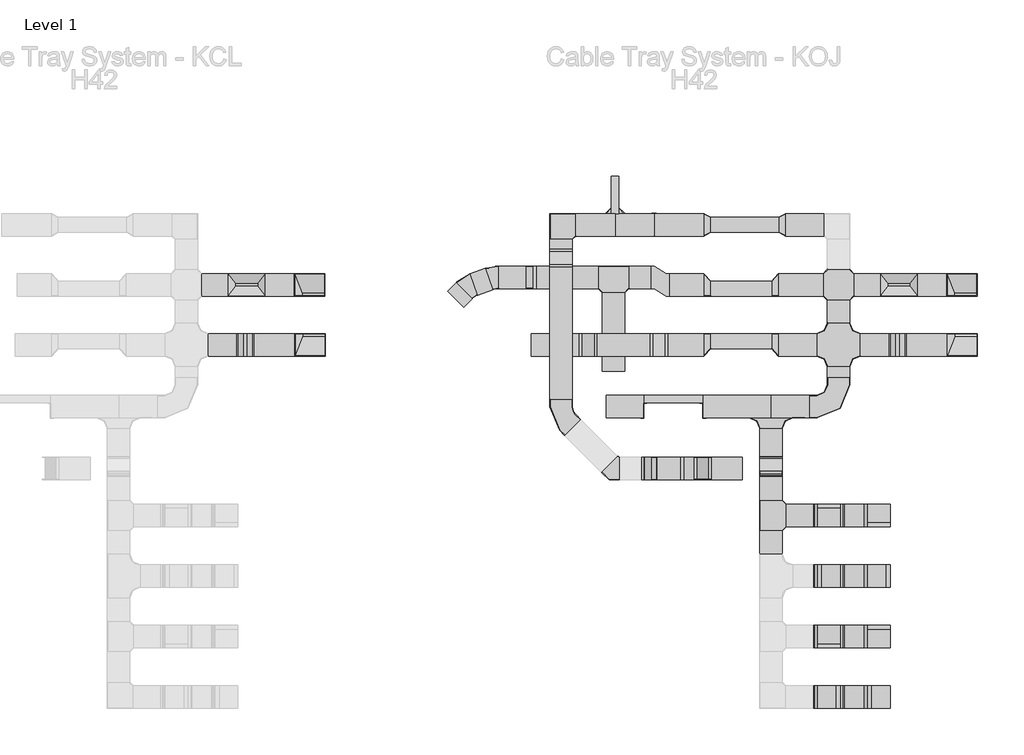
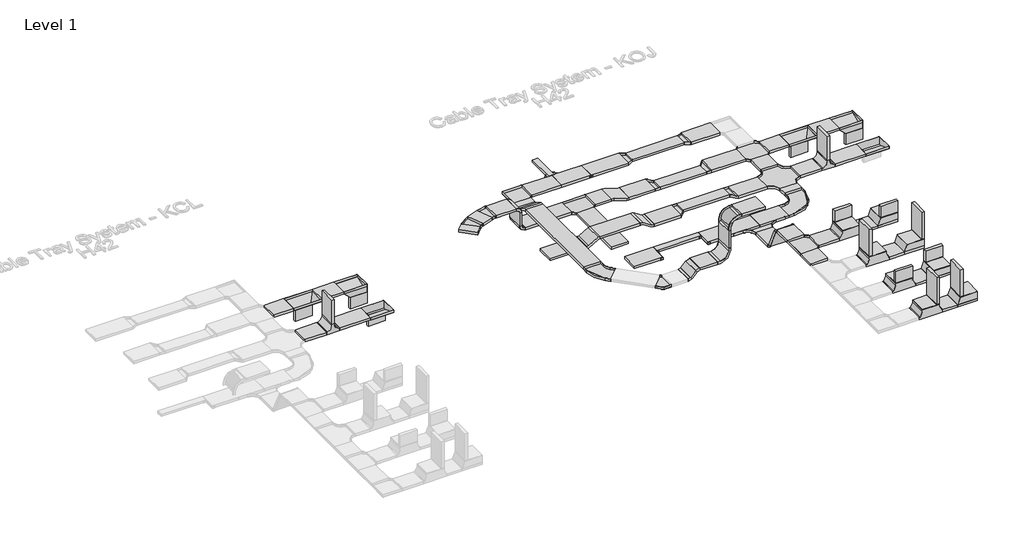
# One storey, part 3 of 32: 65 cable carrier segments, 50 cable carrier fittings.
"""IFC4 building model written with IfcOpenShell, lengths in millimetres."""

from ifc_helpers import new_model, si_unit, frame, origin, place, context, project, spatial, polyline, outline, extrude, transform, mapped, element, save
from components import cable_carrier_fitting_2f03b0e3, cable_carrier_fitting_e5c8e40d, cable_carrier_fitting_efa56db2, cable_carrier_fitting_2b67af39, cable_carrier_fitting_400b97e6, cable_carrier_fitting_736d034b, cable_carrier_fitting_94ef316f, cable_carrier_fitting_d4aa8912, cable_carrier_fitting_717dd42d, cable_carrier_fitting_b6ebce7b, cable_carrier_fitting_70c157f5, cable_carrier_fitting_f138ef00, cable_carrier_fitting_e93d4d17, cable_carrier_fitting_1724e2f5, cable_carrier_fitting_f62230c1, cable_carrier_fitting_ae8e9708, cable_carrier_fitting_2d1b2b1b, cable_carrier_fitting_6d558282, cable_carrier_fitting_b296faec, cable_carrier_fitting_47b1af77, cable_carrier_fitting_55953e98, cable_carrier_fitting_c1d9b0e5, cable_carrier_fitting_19ef2403, cable_carrier_fitting_0fee3a18, cable_carrier_fitting_9011e538, cable_carrier_fitting_5d3ac796, cable_carrier_fitting_b8cc1d00, cable_carrier_fitting_0e05e12f, cable_carrier_fitting_aa4403b1, cable_carrier_fitting_df0feb0d, cable_carrier_fitting_3ff81d9b, cable_carrier_fitting_7d5806c9, cable_carrier_fitting_881c8fdb, cable_carrier_fitting_302010ec, cable_carrier_fitting_0ce080ce, rkj200_h42_828cf9d7, rkj200_h42_37d9c611

model = new_model("IFC4")

# Units and contexts
model_context = context("Model", 3, world=origin())
ifc_project = project(units=[si_unit("LENGTHUNIT", "METRE", prefix="MILLI")], contexts=[model_context])

# Site, building, storey
site = spatial("IfcSite", under=ifc_project)
building = spatial("IfcBuilding", under=site)
storey = spatial("IfcBuildingStorey", under=building, Name="Level 1", Elevation=0.0)

# Cable carrier fittings
placement = place(None, origin())
cable_carrier_fitting_shape = cable_carrier_fitting_2f03b0e3(model_context)
element("IfcCableCarrierFitting", 1, ObjectType="BAKS_Vertical tee symetrical : TRSNJ_H42", at=placement, inside=storey, context=model_context, shape_type="MappedRepresentation", body=[
    mapped(cable_carrier_fitting_shape, transform((-15558.1670538, 44980.8714214, 0.0), x_axis=(1.0, 0.0, 0.0), y_axis=(0.0, -1.0, 0.0), z_axis=(0.0, 0.0, -1.0))),
])
element("IfcCableCarrierFitting", 2, ObjectType="BAKS_Vertical tee symetrical : TRSNJ_H42", at=placement, inside=storey, context=model_context, shape_type="MappedRepresentation", body=[
    mapped(cable_carrier_fitting_shape, transform((-6858.1670538, 44980.8714214, 0.0), x_axis=(1.0, 0.0, 0.0), y_axis=(0.0, -1.0, 0.0), z_axis=(0.0, 0.0, -1.0))),
])
cable_carrier_fitting_2_shape = cable_carrier_fitting_e5c8e40d(model_context)
element("IfcCableCarrierFitting", 3, ObjectType="BAKS_SUB_Corner connector : LRJ_H42", at=placement, inside=storey, context=model_context, shape_type="MappedRepresentation", body=[
    mapped(cable_carrier_fitting_2_shape, transform((-10675.1670538, 46730.8714214, -21.0), x_axis=(-1.0, 0.0, 0.0), y_axis=(0.0, -1.0, 0.0), z_axis=(0.0, 0.0, 1.0))),
])
element("IfcCableCarrierFitting", 4, ObjectType="BAKS_SUB_Corner connector : LRJ_H42", at=placement, inside=storey, context=model_context, shape_type="MappedRepresentation", body=[
    mapped(cable_carrier_fitting_2_shape, transform((-10575.1670538, 46730.8714214, -21.0), x_axis=(0.0, 1.0, 0.0), y_axis=(-1.0, 0.0, 0.0), z_axis=(0.0, 0.0, 1.0))),
])
cable_carrier_fitting_3_shape = cable_carrier_fitting_efa56db2(model_context)
element("IfcCableCarrierFitting", 5, ObjectType="BAKS_Horizontal bypass : OPZNJ_H42", at=placement, inside=storey, context=model_context, shape_type="MappedRepresentation", body=[
    mapped(cable_carrier_fitting_3_shape, transform((-10022.1670538, 45780.8714214, 0.0), x_axis=(-1.0, 0.0, 0.0), y_axis=(0.0, 1.0, 0.0), z_axis=(0.0, 0.0, -1.0))),
])
cable_carrier_fitting_4_shape = cable_carrier_fitting_2b67af39(model_context)
element("IfcCableCarrierFitting", 6, ObjectType="BAKS_Vertical bypass : OPNNJ_H42", at=placement, inside=storey, context=model_context, shape_type="MappedRepresentation", body=[
    mapped(cable_carrier_fitting_4_shape, transform((-10986.6670538, 44980.8714214, 100.0), x_axis=(-1.0, 0.0, 0.0), y_axis=(0.0, -1.0, 0.0), z_axis=(0.0, 0.0, 1.0))),
])
cable_carrier_fitting_5_shape = cable_carrier_fitting_400b97e6(model_context)
element("IfcCableCarrierFitting", 7, ObjectType="BAKS_Vertical elbow left : KRLBJ_H42", at=placement, inside=storey, context=model_context, shape_type="MappedRepresentation", body=[
    mapped(cable_carrier_fitting_5_shape, transform((-14908.1670538, 45780.8714214, 0.0), x_axis=(1.0, 0.0, 0.0), y_axis=(0.0, 1.0, 0.0), z_axis=(0.0, 0.0, 1.0))),
])
element("IfcCableCarrierFitting", 8, ObjectType="BAKS_Vertical elbow left : KRLBJ_H42", at=placement, inside=storey, context=model_context, shape_type="MappedRepresentation", body=[
    mapped(cable_carrier_fitting_5_shape, transform((-6208.1670538, 45780.8714214, 0.0), x_axis=(1.0, 0.0, 0.0), y_axis=(0.0, 1.0, 0.0), z_axis=(0.0, 0.0, 1.0))),
])
cable_carrier_fitting_6_shape = cable_carrier_fitting_736d034b(model_context)
element("IfcCableCarrierFitting", 9, ObjectType="BAKS_Vertical tee lengthwise : TRBJ_H42", at=placement, inside=storey, context=model_context, shape_type="MappedRepresentation", body=[
    mapped(cable_carrier_fitting_6_shape, transform((-15538.1670538, 45780.8714214, 0.0), x_axis=(-1.0, 0.0, 0.0), y_axis=(0.0, -1.0, 0.0), z_axis=(0.0, 0.0, 1.0))),
])
element("IfcCableCarrierFitting", 10, ObjectType="BAKS_Vertical tee lengthwise : TRBJ_H42", at=placement, inside=storey, context=model_context, shape_type="MappedRepresentation", body=[
    mapped(cable_carrier_fitting_6_shape, transform((-6838.1670538, 45780.8714214, 0.0), x_axis=(-1.0, 0.0, 0.0), y_axis=(0.0, -1.0, 0.0), z_axis=(0.0, 0.0, 1.0))),
])
cable_carrier_fitting_7_shape = cable_carrier_fitting_94ef316f(model_context)
element("IfcCableCarrierFitting", 11, ObjectType="BAKS_Reducer : RK(S/L/P)L_H42", at=placement, inside=storey, context=model_context, shape_type="MappedRepresentation", body=[
    mapped(cable_carrier_fitting_7_shape, transform((-9443.1670538, 46580.8714214, 0.0), x_axis=(1.0, 0.0, 0.0), y_axis=(0.0, 1.0, 0.0), z_axis=(0.0, 0.0, 1.0))),
])
cable_carrier_fitting_8_shape = cable_carrier_fitting_d4aa8912(model_context)
element("IfcCableCarrierFitting", 12, ObjectType="BAKS_Reducer : RK(S/L/P)L_H42", at=placement, inside=storey, context=model_context, shape_type="MappedRepresentation", body=[
    mapped(cable_carrier_fitting_8_shape, transform((-8443.1670538, 46580.8714214, 0.0), x_axis=(1.0, 0.0, 0.0), y_axis=(0.0, 1.0, 0.0), z_axis=(0.0, 0.0, 1.0))),
])
cable_carrier_fitting_9_shape = cable_carrier_fitting_717dd42d(model_context)
element("IfcCableCarrierFitting", 13, ObjectType="BAKS_Horizontal bend : KKBL/KKMBL_H42", at=placement, inside=storey, context=model_context, shape_type="MappedRepresentation", body=[
    mapped(cable_carrier_fitting_9_shape, transform((-11343.1670538, 46580.8714214, 0.0), x_axis=(-1.0, 0.0, 0.0), y_axis=(0.0, -1.0, 0.0), z_axis=(0.0, 0.0, 1.0))),
])
cable_carrier_fitting_10_shape = cable_carrier_fitting_b6ebce7b(model_context)
element("IfcCableCarrierFitting", 14, ObjectType="BAKS_Horizontal tee : TKL_H42", at=placement, inside=storey, context=model_context, shape_type="MappedRepresentation", body=[
    mapped(cable_carrier_fitting_10_shape, transform((-10643.6670538, 45880.8714214, 0.0), x_axis=(1.0, 0.0, 0.0), y_axis=(0.0, 1.0, 0.0), z_axis=(0.0, 0.0, 1.0))),
])
element("IfcCableCarrierFitting", 15, ObjectType="BAKS_Horizontal tee : TKL_H42", at=placement, inside=storey, context=model_context, shape_type="MappedRepresentation", body=[
    mapped(cable_carrier_fitting_10_shape, transform((-8546.1670538, 42703.8631068, 432.5277378), x_axis=(0.0, 1.0, 0.0), y_axis=(-1.0, 0.0, 0.0), z_axis=(0.0, 0.0, 1.0))),
])
cable_carrier_fitting_11_shape = cable_carrier_fitting_70c157f5(model_context)
element("IfcCableCarrierFitting", 16, ObjectType="BAKS_Reducer : RK(S/L/P)L_H42", at=placement, inside=storey, context=model_context, shape_type="MappedRepresentation", body=[
    mapped(cable_carrier_fitting_11_shape, transform((-9443.1670538, 45780.8714214, 0.0), x_axis=(1.0, 0.0, 0.0), y_axis=(0.0, 1.0, 0.0), z_axis=(0.0, 0.0, 1.0))),
])
element("IfcCableCarrierFitting", 17, ObjectType="BAKS_Reducer : RK(S/L/P)L_H42", at=placement, inside=storey, context=model_context, shape_type="MappedRepresentation", body=[
    mapped(cable_carrier_fitting_11_shape, transform((-8443.1670538, 44980.8714214, 0.0), x_axis=(-1.0, 0.0, 0.0), y_axis=(0.0, -1.0, 0.0), z_axis=(0.0, 0.0, 1.0))),
])
cable_carrier_fitting_12_shape = cable_carrier_fitting_f138ef00(model_context)
element("IfcCableCarrierFitting", 18, ObjectType="BAKS_Reducer : RK(S/L/P)L_H42", at=placement, inside=storey, context=model_context, shape_type="MappedRepresentation", body=[
    mapped(cable_carrier_fitting_12_shape, transform((-8443.1670538, 45780.8714214, 0.0), x_axis=(-1.0, 0.0, 0.0), y_axis=(0.0, -1.0, 0.0), z_axis=(0.0, 0.0, 1.0))),
])
element("IfcCableCarrierFitting", 19, ObjectType="BAKS_Reducer : RK(S/L/P)L_H42", at=placement, inside=storey, context=model_context, shape_type="MappedRepresentation", body=[
    mapped(cable_carrier_fitting_12_shape, transform((-9443.1670538, 44980.8714214, 0.0), x_axis=(1.0, 0.0, 0.0), y_axis=(0.0, 1.0, 0.0), z_axis=(0.0, 0.0, 1.0))),
])
cable_carrier_fitting_13_shape = cable_carrier_fitting_e93d4d17(model_context)
element("IfcCableCarrierFitting", 20, ObjectType="BAKS_Plate connector : LPMU_H42", at=placement, inside=storey, context=model_context, shape_type="MappedRepresentation", body=[
    mapped(cable_carrier_fitting_13_shape, transform((-10103.1670538, 46580.8714214, 0.0), x_axis=(1.0, 0.0, 0.0), y_axis=(0.0, 1.0, 0.0), z_axis=(0.0, 0.0, 1.0))),
])
cable_carrier_fitting_14_shape = cable_carrier_fitting_1724e2f5(model_context)
element("IfcCableCarrierFitting", 21, ObjectType="BAKS_Vertical bypass : OPNNJ_H42", at=placement, inside=storey, context=model_context, shape_type="MappedRepresentation", body=[
    mapped(cable_carrier_fitting_14_shape, transform((-10043.6670538, 44980.8714214, 0.0), x_axis=(-1.0, 0.0, 0.0), y_axis=(0.0, -1.0, 0.0), z_axis=(0.0, 0.0, 1.0))),
])
element("IfcCableCarrierFitting", 22, ObjectType="BAKS_Vertical bypass : OPNNJ_H42", at=placement, inside=storey, context=model_context, shape_type="MappedRepresentation", body=[
    mapped(cable_carrier_fitting_14_shape, transform((-11343.1670538, 46139.3714214, 0.0), x_axis=(0.0, -1.0, 0.0), y_axis=(1.0, 0.0, 0.0), z_axis=(0.0, 0.0, 1.0))),
])
cable_carrier_fitting_15_shape = cable_carrier_fitting_f62230c1(model_context)
element("IfcCableCarrierFitting", 23, ObjectType="BAKS_Vertical bend LU : LUNJ/LUMNJ_H42", at=placement, inside=storey, context=model_context, shape_type="MappedRepresentation", body=[
    mapped(cable_carrier_fitting_15_shape, transform((-11743.6670538, 45880.8714214, 0.0), x_axis=(-1.0, 0.0, 0.0), y_axis=(0.0, 0.0, 1.0), z_axis=(0.0, 1.0, 0.0))),
])
element("IfcCableCarrierFitting", 24, ObjectType="BAKS_Vertical bend LU : LUNJ/LUMNJ_H42", at=placement, inside=storey, context=model_context, shape_type="MappedRepresentation", body=[
    mapped(cable_carrier_fitting_15_shape, transform((-11743.6670538, 45880.8714214, 400.0), x_axis=(0.0, 0.0, 1.0), y_axis=(-1.0, 0.0, 0.0), z_axis=(0.0, -1.0, 0.0))),
])
cable_carrier_fitting_16_shape = cable_carrier_fitting_ae8e9708(model_context)
element("IfcCableCarrierFitting", 25, ObjectType="BAKS_Horizontal bend : KKBL/KKMBL_H42", at=placement, inside=storey, context=model_context, shape_type="MappedRepresentation", body=[
    mapped(cable_carrier_fitting_16_shape, transform((-10643.6670538, 43331.3714214, 100.0), x_axis=(0.7071067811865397, -0.7071067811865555, 0.0), y_axis=(0.7071067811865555, 0.7071067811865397, 0.0), z_axis=(0.0, 0.0, 1.0))),
])
cable_carrier_fitting_17_shape = cable_carrier_fitting_2d1b2b1b(model_context)
element("IfcCableCarrierFitting", 26, ObjectType="BAKS_Vertical bend LU : LUNJ/LUMNJ_H42", at=placement, inside=storey, context=model_context, shape_type="MappedRepresentation", body=[
    mapped(cable_carrier_fitting_17_shape, transform((-10243.6670538, 43331.3714214, 100.0), x_axis=(1.0, 0.0, 0.0), y_axis=(0.0, 0.0, 1.0), z_axis=(0.0, -1.0, 0.0))),
])
element("IfcCableCarrierFitting", 27, ObjectType="BAKS_Vertical bend LU : LUNJ/LUMNJ_H42", at=placement, inside=storey, context=model_context, shape_type="MappedRepresentation", body=[
    mapped(cable_carrier_fitting_17_shape, transform((-10106.2659001, 43331.3714214, 237.4011537), x_axis=(0.7071067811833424, 0.0, 0.7071067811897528), y_axis=(0.7071067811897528, 0.0, -0.7071067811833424), z_axis=(0.0, 1.0, 0.0))),
])
cable_carrier_fitting_18_shape = cable_carrier_fitting_6d558282(model_context)
element("IfcCableCarrierFitting", 28, ObjectType="BAKS_Vertical bend adjustable : LLL/LLJ_H42", at=placement, inside=storey, context=model_context, shape_type="MappedRepresentation", body=[
    mapped(cable_carrier_fitting_18_shape, transform((-9546.2659001, 43331.3714214, 237.4011537), x_axis=(1.0, 0.0, 0.0), y_axis=(0.0, 0.0, 1.0), z_axis=(0.0, -1.0, 0.0))),
])
element("IfcCableCarrierFitting", 29, ObjectType="BAKS_Vertical bend adjustable : LLL/LLJ_H42", at=placement, inside=storey, context=model_context, shape_type="MappedRepresentation", body=[
    mapped(cable_carrier_fitting_18_shape, transform((-9546.2659001, 43331.3714214, 977.4011537), x_axis=(0.0, 0.0, 1.0), y_axis=(1.0, 0.0, 0.0), z_axis=(0.0, 1.0, 0.0))),
])
cable_carrier_fitting_19_shape = cable_carrier_fitting_b296faec(model_context)
element("IfcCableCarrierFitting", 30, ObjectType="BAKS_Horizontal addon tee : TKDJ_H42", at=placement, inside=storey, context=model_context, shape_type="MappedRepresentation", body=[
    mapped(cable_carrier_fitting_19_shape, transform((-8546.1670538, 44155.8714214, 0.0), x_axis=(1.0, 0.0, 0.0), y_axis=(0.0, 1.0, 0.0), z_axis=(0.0, 0.0, 1.0))),
])
cable_carrier_fitting_20_shape = cable_carrier_fitting_47b1af77(model_context)
element("IfcCableCarrierFitting", 31, ObjectType="BAKS_Articulated_connector : LGJ_H42", at=placement, inside=storey, context=model_context, shape_type="MappedRepresentation", body=[
    mapped(cable_carrier_fitting_20_shape, transform((-8546.1670538, 43458.7056523, 0.0), x_axis=(0.0, -1.0, 0.0), y_axis=(0.0, 0.0, 1.0), z_axis=(-1.0, 0.0, 0.0))),
])
element("IfcCableCarrierFitting", 32, ObjectType="BAKS_Articulated_connector : LGJ_H42", at=placement, inside=storey, context=model_context, shape_type="MappedRepresentation", body=[
    mapped(cable_carrier_fitting_20_shape, transform((-8546.1670538, 43257.0146558, 432.5277378), x_axis=(0.0, -0.42261826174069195, 0.9063077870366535), y_axis=(0.0, -0.9063077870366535, -0.42261826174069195), z_axis=(1.0, 0.0, 0.0))),
])
cable_carrier_fitting_21_shape = cable_carrier_fitting_55953e98(model_context)
element("IfcCableCarrierFitting", 33, ObjectType="BAKS_Horizontal bend radius : KKPJ/KKMPJ_H42", at=placement, inside=storey, context=model_context, shape_type="MappedRepresentation", body=[
    mapped(cable_carrier_fitting_21_shape, transform((-11343.1670538, 44030.8714214, 100.0), x_axis=(0.0, -1.0, 0.0), y_axis=(1.0, 0.0, 0.0), z_axis=(0.0, 0.0, 1.0))),
])
cable_carrier_fitting_22_shape = cable_carrier_fitting_c1d9b0e5(model_context)
element("IfcCableCarrierFitting", 34, ObjectType="BAKS_Horizontal bend radius : KKPJ/KKMPJ_H42", at=placement, inside=storey, context=model_context, shape_type="MappedRepresentation", body=[
    mapped(cable_carrier_fitting_22_shape, transform((-7643.1670538, 44155.8714214, 0.0), x_axis=(1.0, 0.0, 0.0), y_axis=(0.0, 1.0, 0.0), z_axis=(0.0, 0.0, 1.0))),
])
cable_carrier_fitting_23_shape = cable_carrier_fitting_19ef2403(model_context)
element("IfcCableCarrierFitting", 35, ObjectType="BAKS_Adjustable bend : KKRPJ_H42", at=placement, inside=storey, context=model_context, shape_type="MappedRepresentation", body=[
    mapped(cable_carrier_fitting_23_shape, transform((-12581.9563973, 45757.7441698, 400.0), x_axis=(-0.9396926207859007, -0.34202014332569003, 0.0), y_axis=(0.34202014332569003, -0.9396926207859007, 0.0), z_axis=(0.0, 0.0, 1.0))),
])
cable_carrier_fitting_24_shape = cable_carrier_fitting_0fee3a18(model_context)
element("IfcCableCarrierFitting", 36, ObjectType="BAKS_Adjustable bend : KKRPJ_H42", at=placement, inside=storey, context=model_context, shape_type="MappedRepresentation", body=[
    mapped(cable_carrier_fitting_24_shape, transform((-12243.6670538, 45880.8714214, 400.0), x_axis=(-1.0, 0.0, 0.0), y_axis=(0.0, -1.0, 0.0), z_axis=(0.0, 0.0, 1.0))),
])
cable_carrier_fitting_25_shape = cable_carrier_fitting_9011e538(model_context)
element("IfcCableCarrierFitting", 37, ObjectType="BAKS_Horizontal cross over : CZKL_H42", at=placement, inside=storey, context=model_context, shape_type="MappedRepresentation", body=[
    mapped(cable_carrier_fitting_25_shape, transform((-7643.1670538, 45780.8714214, 0.0), x_axis=(0.0, -1.0, 0.0), y_axis=(1.0, 0.0, 0.0), z_axis=(0.0, 0.0, 1.0))),
])
cable_carrier_fitting_26_shape = cable_carrier_fitting_5d3ac796(model_context)
element("IfcCableCarrierFitting", 38, ObjectType="BAKS_Horizontal cross over radius : CZKPJ_H42", at=placement, inside=storey, context=model_context, shape_type="MappedRepresentation", body=[
    mapped(cable_carrier_fitting_26_shape, transform((-7643.1670538, 44980.8714214, 0.0), x_axis=(0.0, -1.0, 0.0), y_axis=(1.0, 0.0, 0.0), z_axis=(0.0, 0.0, 1.0))),
])
cable_carrier_fitting_27_shape = cable_carrier_fitting_b8cc1d00(model_context)
element("IfcCableCarrierFitting", 39, ObjectType="BAKS_Vertical elbow right : KRPJ_H42", at=placement, inside=storey, context=model_context, shape_type="MappedRepresentation", body=[
    mapped(cable_carrier_fitting_27_shape, transform((-14902.1670538, 44980.8714214, 0.0), x_axis=(1.0, 0.0, 0.0), y_axis=(0.0, 1.0, 0.0), z_axis=(0.0, 0.0, 1.0))),
])
element("IfcCableCarrierFitting", 40, ObjectType="BAKS_Vertical elbow right : KRPJ_H42", at=placement, inside=storey, context=model_context, shape_type="MappedRepresentation", body=[
    mapped(cable_carrier_fitting_27_shape, transform((-6202.1670538, 44980.8714214, 0.0), x_axis=(1.0, 0.0, 0.0), y_axis=(0.0, 1.0, 0.0), z_axis=(0.0, 0.0, 1.0))),
])
cable_carrier_fitting_28_shape = cable_carrier_fitting_0e05e12f(model_context)
element("IfcCableCarrierFitting", 41, ObjectType="BAKS_Universal elbow : KRUMJ_H42", at=placement, inside=storey, context=model_context, shape_type="MappedRepresentation", body=[
    mapped(cable_carrier_fitting_28_shape, transform((-7306.1670538, 42703.8631068, 432.5277378), x_axis=(1.0, 0.0, 0.0), y_axis=(0.0, 1.0, 0.0), z_axis=(0.0, 0.0, 1.0))),
])
cable_carrier_fitting_29_shape = cable_carrier_fitting_aa4403b1(model_context)
element("IfcCableCarrierFitting", 42, ObjectType="BAKS_Universal elbow : KRUMJ_H42", at=placement, inside=storey, context=model_context, shape_type="MappedRepresentation", body=[
    mapped(cable_carrier_fitting_29_shape, transform((-7306.1670538, 41089.2974728, 432.5277378), x_axis=(1.0, 0.0, 0.0), y_axis=(0.0, 1.0, 0.0), z_axis=(0.0, 0.0, 1.0))),
])
cable_carrier_fitting_30_shape = cable_carrier_fitting_df0feb0d(model_context)
element("IfcCableCarrierFitting", 43, ObjectType="BAKS_Universal elbow : KRUMJ_H42", at=placement, inside=storey, context=model_context, shape_type="MappedRepresentation", body=[
    mapped(cable_carrier_fitting_30_shape, transform((-7306.1670538, 40282.0146558, 432.5277378), x_axis=(1.0, 0.0, 0.0), y_axis=(0.0, 1.0, 0.0), z_axis=(0.0, 0.0, 1.0))),
])
cable_carrier_fitting_31_shape = cable_carrier_fitting_3ff81d9b(model_context)
element("IfcCableCarrierFitting", 44, ObjectType="BAKS_Universal tee : TRUNJ_H42", at=placement, inside=storey, context=model_context, shape_type="MappedRepresentation", body=[
    mapped(cable_carrier_fitting_31_shape, transform((-7773.5199976, 42703.8631068, 432.5277378), x_axis=(-1.0, 0.0, 0.0), y_axis=(0.0, -1.0, 0.0), z_axis=(0.0, 0.0, 1.0))),
])
cable_carrier_fitting_32_shape = cable_carrier_fitting_7d5806c9(model_context)
element("IfcCableCarrierFitting", 45, ObjectType="BAKS_Universal tee : TRUNJ_H42", at=placement, inside=storey, context=model_context, shape_type="MappedRepresentation", body=[
    mapped(cable_carrier_fitting_32_shape, transform((-7773.5199976, 41089.2974728, 432.5277378), x_axis=(-1.0, 0.0, 0.0), y_axis=(0.0, -1.0, 0.0), z_axis=(0.0, 0.0, 1.0))),
])
cable_carrier_fitting_33_shape = cable_carrier_fitting_881c8fdb(model_context)
element("IfcCableCarrierFitting", 46, ObjectType="BAKS_Universal elbow : KRUMJ_H42", at=placement, inside=storey, context=model_context, shape_type="MappedRepresentation", body=[
    mapped(cable_carrier_fitting_33_shape, transform((-7306.1670538, 41896.5802898, 432.5277378), x_axis=(1.0, 0.0, 0.0), y_axis=(0.0, 1.0, 0.0), z_axis=(0.0, 0.0, 1.0))),
])
cable_carrier_fitting_34_shape = cable_carrier_fitting_302010ec(model_context)
element("IfcCableCarrierFitting", 47, ObjectType="BAKS_Universal tee : TRUNJ_H42", at=placement, inside=storey, context=model_context, shape_type="MappedRepresentation", body=[
    mapped(cable_carrier_fitting_34_shape, transform((-7773.5199976, 41896.5802898, 432.5277378), x_axis=(-1.0, 0.0, 0.0), y_axis=(0.0, -1.0, 0.0), z_axis=(0.0, 0.0, 1.0))),
])
cable_carrier_fitting_35_shape = cable_carrier_fitting_0ce080ce(model_context)
element("IfcCableCarrierFitting", 48, ObjectType="BAKS_Universal tee : TRUNJ_H42", at=placement, inside=storey, context=model_context, shape_type="MappedRepresentation", body=[
    mapped(cable_carrier_fitting_35_shape, transform((-7773.5199976, 40282.0146558, 432.5277378), x_axis=(-1.0, 0.0, 0.0), y_axis=(0.0, -1.0, 0.0), z_axis=(0.0, 0.0, 1.0))),
])
rkj200_h42_shape = rkj200_h42_828cf9d7(model_context)
element("IfcCableCarrierFitting", 49, ObjectType="BAKS_Angle reducer : RKJ200_H42", at=placement, inside=storey, context=model_context, shape_type="MappedRepresentation", body=[
    mapped(rkj200_h42_shape, transform((-9453.1670538, 44155.8714214, 0.0), x_axis=(-1.0, 0.0, 0.0), y_axis=(0.0, -1.0, 0.0), z_axis=(0.0, 0.0, 1.0))),
])
rkj200_h42_2_shape = rkj200_h42_37d9c611(model_context)
element("IfcCableCarrierFitting", 50, ObjectType="BAKS_Angle reducer : RKJ200_H42", at=placement, inside=storey, context=model_context, shape_type="MappedRepresentation", body=[
    mapped(rkj200_h42_2_shape, transform((-10243.1670538, 44155.8714214, 0.0), x_axis=(1.0, 0.0, 0.0), y_axis=(0.0, 1.0, 0.0), z_axis=(0.0, 0.0, 1.0))),
])

# Cable carrier segments
element("IfcCableCarrierSegment", 51, ObjectType="BAKS - Cable tray H42 (KCL)", at=placement, inside=storey, context=model_context, shape_type="SweptSolid", body=[
    extrude(outline(polyline([(-16138.1670538, 45630.8714214), (-16138.1670538, 45930.8714214), (-15788.1670538, 45930.8714214), (-15788.1670538, 45630.8714214), (-16138.1670538, 45630.8714214)])), frame((0.0, 0.0, -21.0), z_axis=(0.0, 0.0, 1.0), x_axis=(1.0, 0.0, 0.0)), (0.0, 0.0, 1.0), 42.0),
])
element("IfcCableCarrierSegment", 52, ObjectType="BAKS - Cable tray H42 (KCL)", at=placement, inside=storey, context=model_context, shape_type="SweptSolid", body=[
    extrude(outline(polyline([(-16052.1670538, 44830.8714214), (-16052.1670538, 45130.8714214), (-15674.1670538, 45130.8714214), (-15674.1670538, 44830.8714214), (-16052.1670538, 44830.8714214)])), frame((0.0, 0.0, -21.0), z_axis=(0.0, 0.0, 1.0), x_axis=(1.0, 0.0, 0.0)), (0.0, 0.0, 1.0), 42.0),
])
element("IfcCableCarrierSegment", 53, ObjectType="BAKS - Cable tray H42 (KCL)", at=placement, inside=storey, context=model_context, shape_type="SweptSolid", body=[
    extrude(outline(polyline([(-15442.1670538, 44830.8714214), (-15442.1670538, 45130.8714214), (-14902.1670538, 45130.8714214), (-14902.1670538, 44830.8714214), (-15442.1670538, 44830.8714214)])), frame((0.0, 0.0, -21.0), z_axis=(0.0, 0.0, 1.0), x_axis=(1.0, 0.0, 0.0)), (0.0, 0.0, 1.0), 42.0),
])
element("IfcCableCarrierSegment", 54, ObjectType="BAKS - Cable tray H42 (KCL)", at=placement, inside=storey, context=model_context, shape_type="SweptSolid", body=[
    extrude(outline(polyline([(-15537.1670538, 44830.8714214), (-15579.1670538, 44830.8714214), (-15579.1670538, 45130.8714214), (-15537.1670538, 45130.8714214), (-15537.1670538, 44830.8714214)])), frame((0.0, 0.0, 136.0), z_axis=(0.0, 0.0, 1.0), x_axis=(1.0, 0.0, 0.0)), (0.0, 0.0, 1.0), 449.0),
])
element("IfcCableCarrierSegment", 55, ObjectType="BAKS - Cable tray H42 (KCL)", at=placement, inside=storey, context=model_context, shape_type="SweptSolid", body=[
    extrude(outline(polyline([(-15288.1670538, 45630.8714214), (-15288.1670538, 45930.8714214), (-14908.1670538, 45930.8714214), (-14908.1670538, 45630.8714214), (-15288.1670538, 45630.8714214)])), frame((0.0, 0.0, -21.0), z_axis=(0.0, 0.0, 1.0), x_axis=(1.0, 0.0, 0.0)), (0.0, 0.0, 1.0), 42.0),
])
element("IfcCableCarrierSegment", 56, ObjectType="BAKS - Cable tray H42 (KOJ)", at=placement, inside=storey, context=model_context, shape_type="SweptSolid", body=[
    extrude(outline(polyline([(-10102.1670538, 46430.8714214), (-10102.1670538, 46730.8714214), (-9443.1670538, 46730.8714214), (-9443.1670538, 46430.8714214), (-10102.1670538, 46430.8714214)])), frame((0.0, 0.0, -21.0), z_axis=(0.0, 0.0, 1.0), x_axis=(1.0, 0.0, 0.0)), (0.0, 0.0, 1.0), 42.0),
])
element("IfcCableCarrierSegment", 57, ObjectType="BAKS - Cable tray H42 (KOJ)", at=placement, inside=storey, context=model_context, shape_type="SweptSolid", body=[
    extrude(outline(polyline([(-9348.1670538, 46480.8714214), (-9348.1670538, 46680.8714214), (-8443.1670538, 46680.8714214), (-8443.1670538, 46480.8714214), (-9348.1670538, 46480.8714214)])), frame((0.0, 0.0, -21.0), z_axis=(0.0, 0.0, 1.0), x_axis=(1.0, 0.0, 0.0)), (0.0, 0.0, 1.0), 42.0),
])
element("IfcCableCarrierSegment", 58, ObjectType="BAKS - Cable tray H42 (KOJ)", at=placement, inside=storey, context=model_context, shape_type="SweptSolid", body=[
    extrude(outline(polyline([(-8348.1670538, 46430.8714214), (-8348.1670538, 46730.8714214), (-7839.1670538, 46730.8714214), (-7839.1670538, 46430.8714214), (-8348.1670538, 46430.8714214)])), frame((0.0, 0.0, -21.0), z_axis=(0.0, 0.0, 1.0), x_axis=(1.0, 0.0, 0.0)), (0.0, 0.0, 1.0), 42.0),
])
element("IfcCableCarrierSegment", 59, ObjectType="BAKS - Cable tray H42 (KOJ)", at=placement, inside=storey, context=model_context, shape_type="SweptSolid", body=[
    extrude(outline(polyline([(-7793.1670538, 45575.8714214), (-7493.1670538, 45575.8714214), (-7493.1670538, 45271.8714214), (-7793.1670538, 45271.8714214), (-7793.1670538, 45575.8714214)])), frame((0.0, 0.0, -21.0), z_axis=(0.0, 0.0, 1.0), x_axis=(1.0, 0.0, 0.0)), (0.0, 0.0, 1.0), 42.0),
])
element("IfcCableCarrierSegment", 60, ObjectType="BAKS - Cable tray H42 (KOJ)", at=placement, inside=storey, context=model_context, shape_type="SweptSolid", body=[
    extrude(outline(polyline([(-8538.1670538, 45830.8714214), (-8538.1670538, 45630.8714214), (-9348.1670538, 45630.8714214), (-9348.1670538, 45830.8714214), (-8538.1670538, 45830.8714214)])), frame((0.0, 0.0, -21.0), z_axis=(0.0, 0.0, 1.0), x_axis=(1.0, 0.0, 0.0)), (0.0, 0.0, 1.0), 42.0),
])
element("IfcCableCarrierSegment", 61, ObjectType="BAKS - Cable tray H42 (KOJ)", at=placement, inside=storey, context=model_context, shape_type="SweptSolid", body=[
    extrude(outline(polyline([(-9900.6670538, 45630.8714214), (-9900.6670538, 45930.8714214), (-9443.1670538, 45930.8714214), (-9443.1670538, 45630.8714214), (-9900.6670538, 45630.8714214)])), frame((0.0, 0.0, -21.0), z_axis=(0.0, 0.0, 1.0), x_axis=(1.0, 0.0, 0.0)), (0.0, 0.0, 1.0), 42.0),
])
element("IfcCableCarrierSegment", 62, ObjectType="BAKS - Cable tray H42 (KOJ)", at=placement, inside=storey, context=model_context, shape_type="SweptSolid", body=[
    extrude(outline(polyline([(-7848.1670538, 45930.8714214), (-7848.1670538, 45630.8714214), (-8443.1670538, 45630.8714214), (-8443.1670538, 45930.8714214), (-7848.1670538, 45930.8714214)])), frame((0.0, 0.0, -21.0), z_axis=(0.0, 0.0, 1.0), x_axis=(1.0, 0.0, 0.0)), (0.0, 0.0, 1.0), 42.0),
])
element("IfcCableCarrierSegment", 63, ObjectType="BAKS - Cable tray H42 (KOJ)", at=placement, inside=storey, context=model_context, shape_type="SweptSolid", body=[
    extrude(outline(polyline([(-8538.1670538, 45130.8714214), (-8538.1670538, 44930.8714214), (-9348.1670538, 44930.8714214), (-9348.1670538, 45130.8714214), (-8538.1670538, 45130.8714214)])), frame((0.0, 0.0, -21.0), z_axis=(0.0, 0.0, 1.0), x_axis=(1.0, 0.0, 0.0)), (0.0, 0.0, 1.0), 42.0),
])
element("IfcCableCarrierSegment", 64, ObjectType="BAKS - Cable tray H42 (KOJ)", at=placement, inside=storey, context=model_context, shape_type="SweptSolid", body=[
    extrude(outline(polyline([(-9922.1670538, 44830.8714214), (-9922.1670538, 45130.8714214), (-9443.1670538, 45130.8714214), (-9443.1670538, 44830.8714214), (-9922.1670538, 44830.8714214)])), frame((0.0, 0.0, -21.0), z_axis=(0.0, 0.0, 1.0), x_axis=(1.0, 0.0, 0.0)), (0.0, 0.0, 1.0), 42.0),
])
element("IfcCableCarrierSegment", 65, ObjectType="BAKS - Cable tray H42 (KOJ)", at=placement, inside=storey, context=model_context, shape_type="SweptSolid", body=[
    extrude(outline(polyline([(-7934.1670538, 45130.8714214), (-7934.1670538, 44830.8714214), (-8443.1670538, 44830.8714214), (-8443.1670538, 45130.8714214), (-7934.1670538, 45130.8714214)])), frame((0.0, 0.0, -21.0), z_axis=(0.0, 0.0, 1.0), x_axis=(1.0, 0.0, 0.0)), (0.0, 0.0, 1.0), 42.0),
])
element("IfcCableCarrierSegment", 66, ObjectType="BAKS - Cable tray H42 (KOJ)", at=placement, inside=storey, context=model_context, shape_type="SweptSolid", body=[
    extrude(outline(polyline([(-10848.6670538, 46030.8714214), (-10848.6670538, 45730.8714214), (-11667.6670538, 45730.8714214), (-11667.6670538, 46030.8714214), (-10848.6670538, 46030.8714214)])), frame((0.0, 0.0, -21.0), z_axis=(0.0, 0.0, 1.0), x_axis=(1.0, 0.0, 0.0)), (0.0, 0.0, 1.0), 42.0),
])
element("IfcCableCarrierSegment", 67, ObjectType="BAKS - Cable tray H42 (KOJ)", at=placement, inside=storey, context=model_context, shape_type="SweptSolid", body=[
    extrude(outline(polyline([(-10165.1670538, 45130.8714214), (-10165.1670538, 44830.8714214), (-10865.1670538, 44830.8714214), (-10865.1670538, 45130.8714214), (-10165.1670538, 45130.8714214)])), frame((0.0, 0.0, 79.0), z_axis=(0.0, 0.0, 1.0), x_axis=(1.0, 0.0, 0.0)), (0.0, 0.0, 1.0), 42.0),
])
element("IfcCableCarrierSegment", 68, ObjectType="BAKS - Cable tray H42 (KOJ)", at=placement, inside=storey, context=model_context, shape_type="SweptSolid", body=[
    extrude(outline(polyline([(-11493.1670538, 46384.8714214), (-11193.1670538, 46384.8714214), (-11193.1670538, 46260.8714214), (-11493.1670538, 46260.8714214), (-11493.1670538, 46384.8714214)])), frame((0.0, 0.0, -21.0), z_axis=(0.0, 0.0, 1.0), x_axis=(1.0, 0.0, 0.0)), (0.0, 0.0, 1.0), 42.0),
])
element("IfcCableCarrierSegment", 69, ObjectType="BAKS - Cable tray H42 (KOJ)", at=placement, inside=storey, context=model_context, shape_type="SweptSolid", body=[
    extrude(outline(polyline([(-10793.6670538, 45675.8714214), (-10493.6670538, 45675.8714214), (-10493.6670538, 44630.8714214), (-10793.6670538, 44630.8714214), (-10793.6670538, 45675.8714214)])), frame((0.0, 0.0, -21.0), z_axis=(0.0, 0.0, 1.0), x_axis=(1.0, 0.0, 0.0)), (0.0, 0.0, 1.0), 42.0),
])
element("IfcCableCarrierSegment", 70, ObjectType="BAKS - Cable tray H42 (KOJ)", at=placement, inside=storey, context=model_context, shape_type="SweptSolid", body=[
    extrude(outline(polyline([(-10143.6670538, 46030.8714214), (-10143.6670538, 45730.8714214), (-10438.6670538, 45730.8714214), (-10438.6670538, 46030.8714214), (-10143.6670538, 46030.8714214)])), frame((0.0, 0.0, -21.0), z_axis=(0.0, 0.0, 1.0), x_axis=(1.0, 0.0, 0.0)), (0.0, 0.0, 1.0), 42.0),
])
element("IfcCableCarrierSegment", 71, ObjectType="BAKS - Cable tray H42 (KOJ)", at=placement, inside=storey, context=model_context, shape_type="SweptSolid", body=[
    extrude(outline(polyline([(-11108.1670538, 45130.8714214), (-11108.1670538, 44830.8714214), (-11743.6670538, 44830.8714214), (-11743.6670538, 45130.8714214), (-11108.1670538, 45130.8714214)])), frame((0.0, 0.0, -21.0), z_axis=(0.0, 0.0, 1.0), x_axis=(1.0, 0.0, 0.0)), (0.0, 0.0, 1.0), 42.0),
])
element("IfcCableCarrierSegment", 72, ObjectType="BAKS - Cable tray H42 (KOJ)", at=placement, inside=storey, context=model_context, shape_type="SweptSolid", body=[
    extrude(outline(polyline([(-12177.5322294, 45730.8714214), (-12177.5322294, 46030.8714214), (-11819.6670538, 46030.8714214), (-11819.6670538, 45730.8714214), (-12177.5322294, 45730.8714214)])), frame((0.0, 0.0, 379.0), z_axis=(0.0, 0.0, 1.0), x_axis=(1.0, 0.0, 0.0)), (0.0, 0.0, 1.0), 42.0),
])
element("IfcCableCarrierSegment", 73, ObjectType="BAKS - Cable tray H42 (KOJ)", at=placement, inside=storey, context=model_context, shape_type="SweptSolid", body=[
    extrude(outline(polyline([(-11764.6670538, 46030.8714214), (-11722.6670538, 46030.8714214), (-11722.6670538, 45730.8714214), (-11764.6670538, 45730.8714214), (-11764.6670538, 46030.8714214)])), frame((0.0, 0.0, 76.0), z_axis=(0.0, 0.0, 1.0), x_axis=(1.0, 0.0, 0.0)), (0.0, 0.0, 1.0), 248.0),
])
element("IfcCableCarrierSegment", 74, ObjectType="BAKS - Cable tray H42 (KOJ)", at=placement, inside=storey, context=model_context, shape_type="SweptSolid", body=[
    extrude(outline(polyline([(-11193.1670538, 44250.9933545), (-11493.1670538, 44250.9933545), (-11493.1670538, 46017.8714214), (-11193.1670538, 46017.8714214), (-11193.1670538, 44250.9933545)])), frame((0.0, 0.0, 79.0), z_axis=(0.0, 0.0, 1.0), x_axis=(1.0, 0.0, 0.0)), (0.0, 0.0, 1.0), 42.0),
])
element("IfcCableCarrierSegment", 75, ObjectType="BAKS - Cable tray H42 (KOJ)", at=placement, inside=storey, context=model_context, shape_type="SweptSolid", body=[
    extrude(outline(polyline([(21.0, 1.4628667), (-21.0, 1.4628667), (-21.0, 301.4628667), (21.0, 301.4628667), (21.0, 1.4628667)])), frame((-10219.3361013, 43179.9085547, 124.3309524), z_axis=(0.7071067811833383, 0.0, 0.7071067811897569), x_axis=(0.7071067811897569, 0.0, -0.7071067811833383)), (0.0, 0.0, 1.0), 125.4962492),
])
element("IfcCableCarrierSegment", 76, ObjectType="BAKS - Cable tray H42 (KOJ)", at=placement, inside=storey, context=model_context, shape_type="SweptSolid", body=[
    extrude(outline(polyline([(-10071.8567371, 43181.3714214), (-10071.8567371, 43481.3714214), (-9757.2659001, 43481.3714214), (-9757.2659001, 43181.3714214), (-10071.8567371, 43181.3714214)])), frame((0.0, 0.0, 216.4011537), z_axis=(0.0, 0.0, 1.0), x_axis=(1.0, 0.0, 0.0)), (0.0, 0.0, 1.0), 42.0),
])
element("IfcCableCarrierSegment", 77, ObjectType="BAKS - Cable tray H42 (KOJ)", at=placement, inside=storey, context=model_context, shape_type="SweptSolid", body=[
    extrude(outline(polyline([(-9525.2659001, 43181.3714214), (-9567.2659001, 43181.3714214), (-9567.2659001, 43481.3714214), (-9525.2659001, 43481.3714214), (-9525.2659001, 43181.3714214)])), frame((0.0, 0.0, 448.4011537), z_axis=(0.0, 0.0, 1.0), x_axis=(1.0, 0.0, 0.0)), (0.0, 0.0, 1.0), 318.0),
])
element("IfcCableCarrierSegment", 78, ObjectType="BAKS - Cable tray H42 (KOJ)", at=placement, inside=storey, context=model_context, shape_type="SweptSolid", body=[
    extrude(outline(polyline([(-9335.2659001, 43181.3714214), (-9335.2659001, 43481.3714214), (-8926.2659001, 43481.3714214), (-8926.2659001, 43181.3714214), (-9335.2659001, 43181.3714214)])), frame((0.0, 0.0, 956.4011537), z_axis=(0.0, 0.0, 1.0), x_axis=(1.0, 0.0, 0.0)), (0.0, 0.0, 1.0), 42.0),
])
element("IfcCableCarrierSegment", 79, ObjectType="BAKS - Cable tray H42 (KOJ)", at=placement, inside=storey, context=model_context, shape_type="SweptSolid", body=[
    extrude(outline(polyline([(-8546.7091451, 44305.8714214), (-8546.7091451, 44005.8714214), (-9453.1670538, 44005.8714214), (-9453.1670538, 44305.8714214), (-8546.7091451, 44305.8714214)])), frame((0.0, 0.0, -21.0), z_axis=(0.0, 0.0, 1.0), x_axis=(1.0, 0.0, 0.0)), (0.0, 0.0, 1.0), 42.0),
])
element("IfcCableCarrierSegment", 80, ObjectType="BAKS - Cable tray H42 (KOJ)", at=placement, inside=storey, context=model_context, shape_type="SweptSolid", body=[
    extrude(outline(polyline([(-10238.1670538, 44205.8714214), (-10238.1670538, 44305.8714214), (-9458.1670538, 44305.8714214), (-9458.1670538, 44205.8714214), (-10238.1670538, 44205.8714214)])), frame((0.0, 0.0, -21.0), z_axis=(0.0, 0.0, 1.0), x_axis=(1.0, 0.0, 0.0)), (0.0, 0.0, 1.0), 42.0),
])
element("IfcCableCarrierSegment", 81, ObjectType="BAKS - Cable tray H42 (KOJ)", at=placement, inside=storey, context=model_context, shape_type="SweptSolid", body=[
    extrude(outline(polyline([(-7493.1670538, 44545.8714214), (-7793.1670538, 44545.8714214), (-7793.1670538, 44689.8714214), (-7493.1670538, 44689.8714214), (-7493.1670538, 44545.8714214)])), frame((0.0, 0.0, -21.0), z_axis=(0.0, 0.0, 1.0), x_axis=(1.0, 0.0, 0.0)), (0.0, 0.0, 1.0), 42.0),
])
element("IfcCableCarrierSegment", 82, ObjectType="BAKS - Cable tray H42 (KOJ)", at=placement, inside=storey, context=model_context, shape_type="SweptSolid", body=[
    extrude(outline(polyline([(-10743.1670538, 44005.8714214), (-10743.1670538, 44305.8714214), (-10243.1670538, 44305.8714214), (-10243.1670538, 44005.8714214), (-10743.1670538, 44005.8714214)])), frame((0.0, 0.0, -21.0), z_axis=(0.0, 0.0, 1.0), x_axis=(1.0, 0.0, 0.0)), (0.0, 0.0, 1.0), 42.0),
])
element("IfcCableCarrierSegment", 83, ObjectType="BAKS - Cable tray H42 (KOJ)", at=placement, inside=storey, context=model_context, shape_type="SweptSolid", body=[
    extrude(outline(polyline([(-8033.1670538, 44305.8714214), (-8033.1670538, 44005.8714214), (-8545.6249624, 44005.8714214), (-8545.6249624, 44305.8714214), (-8033.1670538, 44305.8714214)])), frame((0.0, 0.0, -21.0), z_axis=(0.0, 0.0, 1.0), x_axis=(1.0, 0.0, 0.0)), (0.0, 0.0, 1.0), 42.0),
])
element("IfcCableCarrierSegment", 84, ObjectType="BAKS - Cable tray H42 (KOJ)", at=placement, inside=storey, context=model_context, shape_type="SweptSolid", body=[
    extrude(outline(polyline([(-8696.1670538, 43859.8714214), (-8396.1670538, 43859.8714214), (-8396.1670538, 43494.8255329), (-8696.1670538, 43494.8255329), (-8696.1670538, 43859.8714214)])), frame((0.0, 0.0, -21.0), z_axis=(0.0, 0.0, 1.0), x_axis=(1.0, 0.0, 0.0)), (0.0, 0.0, 1.0), 42.0),
])
element("IfcCableCarrierSegment", 85, ObjectType="BAKS - Cable tray H42 (KOJ)", at=placement, inside=storey, context=model_context, shape_type="SweptSolid", body=[
    extrude(outline(polyline([(-150.0, 130.4628667), (-150.0, 172.4628667), (150.0, 172.4628667), (150.0, 130.4628667), (-150.0, 130.4628667)])), frame((-8546.1670538, 43306.1687555, -31.2752443), z_axis=(0.0, -0.42261826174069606, 0.9063077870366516), x_axis=(1.0, 0.0, 0.0)), (0.0, 0.0, 1.0), 405.0017938),
])
element("IfcCableCarrierSegment", 86, ObjectType="BAKS - Cable tray H42 (KOJ)", at=placement, inside=storey, context=model_context, shape_type="SweptSolid", body=[
    extrude(outline(polyline([(-12357.1164817, 45999.2058724), (-12254.5104387, 45717.2980862), (-12456.1437833, 45643.9095505), (-12558.7498263, 45925.8173368), (-12357.1164817, 45999.2058724)])), frame((0.0, 0.0, 379.0), z_axis=(0.0, 0.0, 1.0), x_axis=(1.0, 0.0, 0.0)), (0.0, 0.0, 1.0), 42.0),
])
element("IfcCableCarrierSegment", 87, ObjectType="BAKS - Cable tray H42 (KOJ)", at=placement, inside=storey, context=model_context, shape_type="SweptSolid", body=[
    extrude(outline(polyline([(-12744.0899379, 45807.7426635), (-12531.9579036, 45595.6106291), (-12644.3432656, 45483.2252671), (-12856.4753, 45695.3573015), (-12744.0899379, 45807.7426635)])), frame((0.0, 0.0, 379.0), z_axis=(0.0, 0.0, 1.0), x_axis=(1.0, 0.0, 0.0)), (0.0, 0.0, 1.0), 42.0),
])
element("IfcCableCarrierSegment", 88, ObjectType="BAKS - Cable tray H42 (KOJ)", at=placement, inside=storey, context=model_context, shape_type="SweptSolid", body=[
    extrude(outline(polyline([(-7438.1670538, 45630.8714214), (-7438.1670538, 45930.8714214), (-7088.1670538, 45930.8714214), (-7088.1670538, 45630.8714214), (-7438.1670538, 45630.8714214)])), frame((0.0, 0.0, -21.0), z_axis=(0.0, 0.0, 1.0), x_axis=(1.0, 0.0, 0.0)), (0.0, 0.0, 1.0), 42.0),
])
element("IfcCableCarrierSegment", 89, ObjectType="BAKS - Cable tray H42 (KOJ)", at=placement, inside=storey, context=model_context, shape_type="SweptSolid", body=[
    extrude(outline(polyline([(-7352.1670538, 44830.8714214), (-7352.1670538, 45130.8714214), (-6974.1670538, 45130.8714214), (-6974.1670538, 44830.8714214), (-7352.1670538, 44830.8714214)])), frame((0.0, 0.0, -21.0), z_axis=(0.0, 0.0, 1.0), x_axis=(1.0, 0.0, 0.0)), (0.0, 0.0, 1.0), 42.0),
])
element("IfcCableCarrierSegment", 90, ObjectType="BAKS - Cable tray H42 (KOJ)", at=placement, inside=storey, context=model_context, shape_type="SweptSolid", body=[
    extrude(outline(polyline([(-6742.1670538, 44830.8714214), (-6742.1670538, 45130.8714214), (-6202.1670538, 45130.8714214), (-6202.1670538, 44830.8714214), (-6742.1670538, 44830.8714214)])), frame((0.0, 0.0, -21.0), z_axis=(0.0, 0.0, 1.0), x_axis=(1.0, 0.0, 0.0)), (0.0, 0.0, 1.0), 42.0),
])
element("IfcCableCarrierSegment", 91, ObjectType="BAKS - Cable tray H42 (KOJ)", at=placement, inside=storey, context=model_context, shape_type="SweptSolid", body=[
    extrude(outline(polyline([(-6837.1670538, 44830.8714214), (-6879.1670538, 44830.8714214), (-6879.1670538, 45130.8714214), (-6837.1670538, 45130.8714214), (-6837.1670538, 44830.8714214)])), frame((0.0, 0.0, 136.0), z_axis=(0.0, 0.0, 1.0), x_axis=(1.0, 0.0, 0.0)), (0.0, 0.0, 1.0), 449.0),
])
element("IfcCableCarrierSegment", 92, ObjectType="BAKS - Cable tray H42 (KOJ)", at=placement, inside=storey, context=model_context, shape_type="SweptSolid", body=[
    extrude(outline(polyline([(-6588.1670538, 45630.8714214), (-6588.1670538, 45930.8714214), (-6208.1670538, 45930.8714214), (-6208.1670538, 45630.8714214), (-6588.1670538, 45630.8714214)])), frame((0.0, 0.0, -21.0), z_axis=(0.0, 0.0, 1.0), x_axis=(1.0, 0.0, 0.0)), (0.0, 0.0, 1.0), 42.0),
])
element("IfcCableCarrierSegment", 93, ObjectType="BAKS - Cable tray H42 (KOJ)", at=placement, inside=storey, context=model_context, shape_type="SweptSolid", body=[
    extrude(outline(polyline([(-10625.6670538, 46730.8714214), (-10625.6670538, 46430.8714214), (-11147.1670538, 46430.8714214), (-11147.1670538, 46730.8714214), (-10625.6670538, 46730.8714214)])), frame((0.0, 0.0, -21.0), z_axis=(0.0, 0.0, 1.0), x_axis=(1.0, 0.0, 0.0)), (0.0, 0.0, 1.0), 42.0),
])
element("IfcCableCarrierSegment", 94, ObjectType="BAKS - Cable tray H42 (KOJ)", at=placement, inside=storey, context=model_context, shape_type="SweptSolid", body=[
    extrude(outline(polyline([(-10575.1670538, 46730.8714214), (-10675.1670538, 46730.8714214), (-10675.1670538, 47230.8714214), (-10575.1670538, 47230.8714214), (-10575.1670538, 46730.8714214)])), frame((0.0, 0.0, -21.0), z_axis=(0.0, 0.0, 1.0), x_axis=(1.0, 0.0, 0.0)), (0.0, 0.0, 1.0), 42.0),
])
element("IfcCableCarrierSegment", 95, ObjectType="BAKS - Cable tray H42 (KOJ)", at=placement, inside=storey, context=model_context, shape_type="SweptSolid", body=[
    extrude(outline(polyline([(-10103.1670538, 46730.8714214), (-10103.1670538, 46430.8714214), (-10624.6670538, 46430.8714214), (-10624.6670538, 46730.8714214), (-10103.1670538, 46730.8714214)])), frame((0.0, 0.0, -21.0), z_axis=(0.0, 0.0, 1.0), x_axis=(1.0, 0.0, 0.0)), (0.0, 0.0, 1.0), 42.0),
])
element("IfcCableCarrierSegment", 96, ObjectType="BAKS - Cable tray H42 (KOJ)", at=placement, inside=storey, context=model_context, shape_type="SweptSolid", body=[
    extrude(outline(polyline([(-7563.5199976, 40132.0146558), (-7563.5199976, 40432.0146558), (-7306.1670538, 40432.0146558), (-7306.1670538, 40132.0146558), (-7563.5199976, 40132.0146558)])), frame((0.0, 0.0, 411.5277378), z_axis=(0.0, 0.0, 1.0), x_axis=(1.0, 0.0, 0.0)), (0.0, 0.0, 1.0), 42.0),
])
element("IfcCableCarrierSegment", 97, ObjectType="BAKS - Cable tray H42 (KOJ)", at=placement, inside=storey, context=model_context, shape_type="SweptSolid", body=[
    extrude(outline(polyline([(-7563.5199976, 40939.2974728), (-7563.5199976, 41239.2974728), (-7306.1670538, 41239.2974728), (-7306.1670538, 40939.2974728), (-7563.5199976, 40939.2974728)])), frame((0.0, 0.0, 411.5277378), z_axis=(0.0, 0.0, 1.0), x_axis=(1.0, 0.0, 0.0)), (0.0, 0.0, 1.0), 42.0),
])
element("IfcCableCarrierSegment", 98, ObjectType="BAKS - Cable tray H42 (KOJ)", at=placement, inside=storey, context=model_context, shape_type="SweptSolid", body=[
    extrude(outline(polyline([(-7563.5199976, 41746.5802898), (-7563.5199976, 42046.5802898), (-7306.1670538, 42046.5802898), (-7306.1670538, 41746.5802898), (-7563.5199976, 41746.5802898)])), frame((0.0, 0.0, 411.5277378), z_axis=(0.0, 0.0, 1.0), x_axis=(1.0, 0.0, 0.0)), (0.0, 0.0, 1.0), 42.0),
])
element("IfcCableCarrierSegment", 99, ObjectType="BAKS - Cable tray H42 (KOJ)", at=placement, inside=storey, context=model_context, shape_type="SweptSolid", body=[
    extrude(outline(polyline([(-8696.1670538, 42498.8631068), (-8396.1670538, 42498.8631068), (-8396.1670538, 42191.5802898), (-8696.1670538, 42191.5802898), (-8696.1670538, 42498.8631068)])), frame((0.0, 0.0, 411.5277378), z_axis=(0.0, 0.0, 1.0), x_axis=(1.0, 0.0, 0.0)), (0.0, 0.0, 1.0), 42.0),
])
element("IfcCableCarrierSegment", 100, ObjectType="BAKS - Cable tray H42 (KOJ)", at=placement, inside=storey, context=model_context, shape_type="SweptSolid", body=[
    extrude(outline(polyline([(-7563.5199976, 42553.8631068), (-7563.5199976, 42853.8631068), (-7306.1670538, 42853.8631068), (-7306.1670538, 42553.8631068), (-7563.5199976, 42553.8631068)])), frame((0.0, 0.0, 411.5277378), z_axis=(0.0, 0.0, 1.0), x_axis=(1.0, 0.0, 0.0)), (0.0, 0.0, 1.0), 42.0),
])
element("IfcCableCarrierSegment", 101, ObjectType="BAKS - Cable tray H42 (KOJ)", at=placement, inside=storey, context=model_context, shape_type="SweptSolid", body=[
    extrude(outline(polyline([(-8396.1670538, 42908.8631068), (-8696.1670538, 42908.8631068), (-8696.1670538, 43220.8947751), (-8396.1670538, 43220.8947751), (-8396.1670538, 42908.8631068)])), frame((0.0, 0.0, 411.5277378), z_axis=(0.0, 0.0, 1.0), x_axis=(1.0, 0.0, 0.0)), (0.0, 0.0, 1.0), 42.0),
])
element("IfcCableCarrierSegment", 102, ObjectType="BAKS - Cable tray H42 (KOJ)", at=placement, inside=storey, context=model_context, shape_type="SweptSolid", body=[
    extrude(outline(polyline([(-8341.1670538, 42553.8631068), (-8341.1670538, 42853.8631068), (-7983.5199976, 42853.8631068), (-7983.5199976, 42553.8631068), (-8341.1670538, 42553.8631068)])), frame((0.0, 0.0, 411.5277378), z_axis=(0.0, 0.0, 1.0), x_axis=(1.0, 0.0, 0.0)), (0.0, 0.0, 1.0), 42.0),
])
element("IfcCableCarrierSegment", 103, ObjectType="BAKS - Cable tray H42 (KOJ)", at=placement, inside=storey, context=model_context, shape_type="SweptSolid", body=[
    extrude(outline(polyline([(-7256.1670538, 42553.8631068), (-7256.1670538, 42603.8631068), (-6956.1670538, 42603.8631068), (-6956.1670538, 42553.8631068), (-7256.1670538, 42553.8631068)])), frame((0.0, 0.0, 586.5277378), z_axis=(0.0, 0.0, 1.0), x_axis=(1.0, 0.0, 0.0)), (0.0, 0.0, 1.0), 209.7997464),
])
element("IfcCableCarrierSegment", 104, ObjectType="BAKS - Cable tray H42 (KOJ)", at=placement, inside=storey, context=model_context, shape_type="SweptSolid", body=[
    extrude(outline(polyline([(-7623.5199976, 42853.8631068), (-7623.5199976, 42803.8631068), (-7923.5199976, 42803.8631068), (-7923.5199976, 42853.8631068), (-7623.5199976, 42853.8631068)])), frame((0.0, 0.0, 586.5277378), z_axis=(0.0, 0.0, 1.0), x_axis=(1.0, 0.0, 0.0)), (0.0, 0.0, 1.0), 209.7997464),
])
element("IfcCableCarrierSegment", 105, ObjectType="BAKS - Cable tray H42 (KOJ)", at=placement, inside=storey, context=model_context, shape_type="SweptSolid", body=[
    extrude(outline(polyline([(-7006.1670538, 42046.5802898), (-6956.1670538, 42046.5802898), (-6956.1670538, 41746.5802898), (-7006.1670538, 41746.5802898), (-7006.1670538, 42046.5802898)])), frame((0.0, 0.0, 586.5277378), z_axis=(0.0, 0.0, 1.0), x_axis=(1.0, 0.0, 0.0)), (0.0, 0.0, 1.0), 500.0),
])
element("IfcCableCarrierSegment", 106, ObjectType="BAKS - Cable tray H42 (KOJ)", at=placement, inside=storey, context=model_context, shape_type="SweptSolid", body=[
    extrude(outline(polyline([(-7923.5199976, 42046.5802898), (-7873.5199976, 42046.5802898), (-7873.5199976, 41746.5802898), (-7923.5199976, 41746.5802898), (-7923.5199976, 42046.5802898)])), frame((0.0, 0.0, 586.5277378), z_axis=(0.0, 0.0, 1.0), x_axis=(1.0, 0.0, 0.0)), (0.0, 0.0, 1.0), 500.0),
])
element("IfcCableCarrierSegment", 107, ObjectType="BAKS - Cable tray H42 (KOJ)", at=placement, inside=storey, context=model_context, shape_type="SweptSolid", body=[
    extrude(outline(polyline([(-7256.1670538, 41189.2974728), (-7256.1670538, 41239.2974728), (-6956.1670538, 41239.2974728), (-6956.1670538, 41189.2974728), (-7256.1670538, 41189.2974728)])), frame((0.0, 0.0, 586.5277378), z_axis=(0.0, 0.0, 1.0), x_axis=(1.0, 0.0, 0.0)), (0.0, 0.0, 1.0), 209.7997464),
])
element("IfcCableCarrierSegment", 108, ObjectType="BAKS - Cable tray H42 (KOJ)", at=placement, inside=storey, context=model_context, shape_type="SweptSolid", body=[
    extrude(outline(polyline([(-7923.5199976, 40939.2974728), (-7923.5199976, 40989.2974728), (-7623.5199976, 40989.2974728), (-7623.5199976, 40939.2974728), (-7923.5199976, 40939.2974728)])), frame((0.0, 0.0, 586.5277378), z_axis=(0.0, 0.0, 1.0), x_axis=(1.0, 0.0, 0.0)), (0.0, 0.0, 1.0), 209.7997464),
])
element("IfcCableCarrierSegment", 109, ObjectType="BAKS - Cable tray H42 (KOJ)", at=placement, inside=storey, context=model_context, shape_type="SweptSolid", body=[
    extrude(outline(polyline([(-7673.5199976, 40432.0146558), (-7623.5199976, 40432.0146558), (-7623.5199976, 40132.0146558), (-7673.5199976, 40132.0146558), (-7673.5199976, 40432.0146558)])), frame((0.0, 0.0, 586.5277378), z_axis=(0.0, 0.0, 1.0), x_axis=(1.0, 0.0, 0.0)), (0.0, 0.0, 1.0), 500.0),
])
element("IfcCableCarrierSegment", 110, ObjectType="BAKS - Cable tray H42 (KOJ)", at=placement, inside=storey, context=model_context, shape_type="SweptSolid", body=[
    extrude(outline(polyline([(-7256.1670538, 40432.0146558), (-7206.1670538, 40432.0146558), (-7206.1670538, 40132.0146558), (-7256.1670538, 40132.0146558), (-7256.1670538, 40432.0146558)])), frame((0.0, 0.0, 586.5277378), z_axis=(0.0, 0.0, 1.0), x_axis=(1.0, 0.0, 0.0)), (0.0, 0.0, 1.0), 500.0),
])
element("IfcCableCarrierSegment", 111, ObjectType="BAKS - Cable tray H42 (KCL)", at=placement, inside=storey, context=model_context, shape_type="SweptSolid", body=[
    extrude(outline(polyline([(-15688.1670538, 45801.8714214), (-15388.1670538, 45801.8714214), (-15388.1670538, 45759.8714214), (-15688.1670538, 45759.8714214), (-15688.1670538, 45801.8714214)])), frame((0.0, 0.0, -330.7997464), z_axis=(0.0, 0.0, 1.0), x_axis=(1.0, 0.0, 0.0)), (0.0, 0.0, 1.0), 209.7997464),
])
element("IfcCableCarrierSegment", 112, ObjectType="BAKS - Cable tray H42 (KCL)", at=placement, inside=storey, context=model_context, shape_type="SweptSolid", body=[
    extrude(outline(polyline([(-14498.1670538, 45630.8714214), (-14798.1670538, 45630.8714214), (-14798.1670538, 45672.8714214), (-14498.1670538, 45672.8714214), (-14498.1670538, 45630.8714214)])), frame((0.0, 0.0, -330.7997464), z_axis=(0.0, 0.0, 1.0), x_axis=(1.0, 0.0, 0.0)), (0.0, 0.0, 1.0), 209.7997464),
])
element("IfcCableCarrierSegment", 113, ObjectType="BAKS - Cable tray H42 (KCL)", at=placement, inside=storey, context=model_context, shape_type="SweptSolid", body=[
    extrude(outline(polyline([(-14492.1670538, 45088.8714214), (-14792.1670538, 45088.8714214), (-14792.1670538, 45130.8714214), (-14492.1670538, 45130.8714214), (-14492.1670538, 45088.8714214)])), frame((0.0, 0.0, -330.7997464), z_axis=(0.0, 0.0, 1.0), x_axis=(1.0, 0.0, 0.0)), (0.0, 0.0, 1.0), 209.7997464),
])
element("IfcCableCarrierSegment", 114, ObjectType="BAKS - Cable tray H42 (KOJ)", at=placement, inside=storey, context=model_context, shape_type="SweptSolid", body=[
    extrude(outline(polyline([(-6988.1670538, 45801.8714214), (-6688.1670538, 45801.8714214), (-6688.1670538, 45759.8714214), (-6988.1670538, 45759.8714214), (-6988.1670538, 45801.8714214)])), frame((0.0, 0.0, -330.7997464), z_axis=(0.0, 0.0, 1.0), x_axis=(1.0, 0.0, 0.0)), (0.0, 0.0, 1.0), 209.7997464),
])
element("IfcCableCarrierSegment", 115, ObjectType="BAKS - Cable tray H42 (KOJ)", at=placement, inside=storey, context=model_context, shape_type="SweptSolid", body=[
    extrude(outline(polyline([(-5798.1670538, 45630.8714214), (-6098.1670538, 45630.8714214), (-6098.1670538, 45672.8714214), (-5798.1670538, 45672.8714214), (-5798.1670538, 45630.8714214)])), frame((0.0, 0.0, -330.7997464), z_axis=(0.0, 0.0, 1.0), x_axis=(1.0, 0.0, 0.0)), (0.0, 0.0, 1.0), 209.7997464),
])

save(model, "model.ifc")
